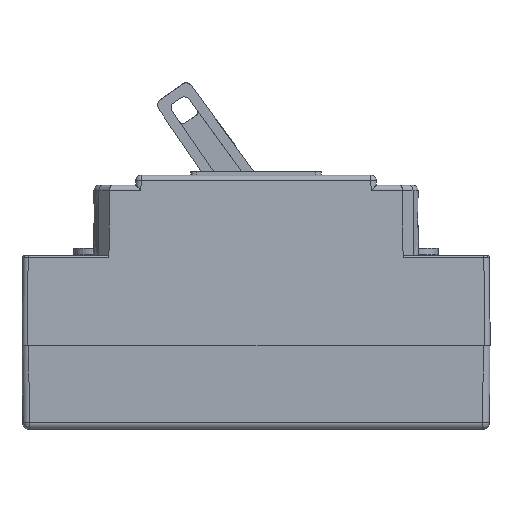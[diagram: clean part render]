
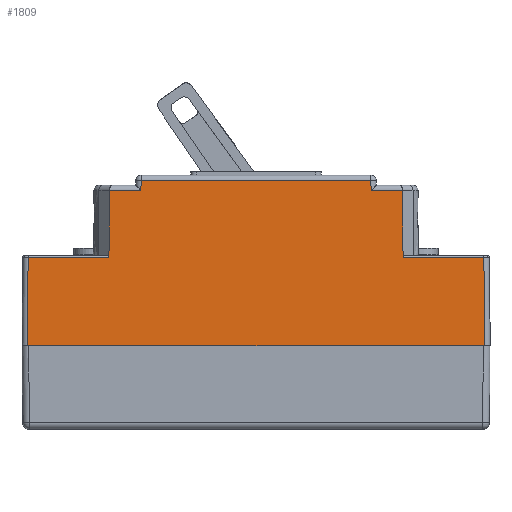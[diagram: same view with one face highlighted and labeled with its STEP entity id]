
A CAD part, left-side view. The second image highlights one B-rep face of the part: STEP entity #1809.
In plain terms, the highlighted planar face has unit normal (-1, 0, 0.009).
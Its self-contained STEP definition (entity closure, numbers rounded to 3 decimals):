
#1275=B_SPLINE_CURVE_WITH_KNOTS('',3,(#16847,#16848,#16849,#16850),
 .UNSPECIFIED.,.F.,.F.,(4,4),(0.,1.),.UNSPECIFIED.);
#1304=B_SPLINE_CURVE_WITH_KNOTS('',3,(#18096,#18097,#18098,#18099),
 .UNSPECIFIED.,.F.,.F.,(4,4),(0.,1.),.UNSPECIFIED.);
#1309=B_SPLINE_CURVE_WITH_KNOTS('',3,(#18127,#18128,#18129,#18130),
 .UNSPECIFIED.,.F.,.F.,(4,4),(0.,1.),.UNSPECIFIED.);
#1809=ADVANCED_FACE('',(#2727),#2230,.T.);
#2230=PLANE('',#12087);
#2727=FACE_OUTER_BOUND('',#3419,.T.);
#3419=EDGE_LOOP('',(#5797,#5798,#5799,#5800,#5801,#5802,#5803,#5804,#5805,
#5806,#5807,#5808,#5809,#5810));
#5797=ORIENTED_EDGE('',*,*,#9179,.T.);
#5798=ORIENTED_EDGE('',*,*,#9180,.T.);
#5799=ORIENTED_EDGE('',*,*,#9181,.F.);
#5800=ORIENTED_EDGE('',*,*,#9182,.T.);
#5801=ORIENTED_EDGE('',*,*,#9183,.T.);
#5802=ORIENTED_EDGE('',*,*,#9184,.T.);
#5803=ORIENTED_EDGE('',*,*,#9185,.T.);
#5804=ORIENTED_EDGE('',*,*,#9186,.T.);
#5805=ORIENTED_EDGE('',*,*,#9187,.T.);
#5806=ORIENTED_EDGE('',*,*,#9188,.T.);
#5807=ORIENTED_EDGE('',*,*,#9189,.T.);
#5808=ORIENTED_EDGE('',*,*,#8841,.T.);
#5809=ORIENTED_EDGE('',*,*,#8396,.F.);
#5810=ORIENTED_EDGE('',*,*,#8832,.T.);
#7363=VERTEX_POINT('',#16846);
#7364=VERTEX_POINT('',#16851);
#7533=VERTEX_POINT('',#18100);
#7537=VERTEX_POINT('',#18131);
#7789=VERTEX_POINT('',#19366);
#7790=VERTEX_POINT('',#19368);
#7791=VERTEX_POINT('',#19370);
#7792=VERTEX_POINT('',#19372);
#7793=VERTEX_POINT('',#19374);
#7794=VERTEX_POINT('',#19376);
#7795=VERTEX_POINT('',#19378);
#7796=VERTEX_POINT('',#19380);
#7797=VERTEX_POINT('',#19382);
#7798=VERTEX_POINT('',#19384);
#8396=EDGE_CURVE('',#7363,#7364,#1275,.T.);
#8832=EDGE_CURVE('',#7363,#7533,#1304,.T.);
#8841=EDGE_CURVE('',#7537,#7364,#1309,.T.);
#9179=EDGE_CURVE('',#7533,#7789,#10219,.T.);
#9180=EDGE_CURVE('',#7789,#7790,#10220,.T.);
#9181=EDGE_CURVE('',#7791,#7790,#10221,.T.);
#9182=EDGE_CURVE('',#7791,#7792,#10222,.T.);
#9183=EDGE_CURVE('',#7792,#7793,#10223,.T.);
#9184=EDGE_CURVE('',#7793,#7794,#10224,.T.);
#9185=EDGE_CURVE('',#7794,#7795,#10225,.T.);
#9186=EDGE_CURVE('',#7795,#7796,#10226,.T.);
#9187=EDGE_CURVE('',#7796,#7797,#10227,.T.);
#9188=EDGE_CURVE('',#7797,#7798,#10228,.T.);
#9189=EDGE_CURVE('',#7798,#7537,#10229,.T.);
#10219=LINE('',#19365,#11061);
#10220=LINE('',#19367,#11062);
#10221=LINE('',#19369,#11063);
#10222=LINE('',#19371,#11064);
#10223=LINE('',#19373,#11065);
#10224=LINE('',#19375,#11066);
#10225=LINE('',#19377,#11067);
#10226=LINE('',#19379,#11068);
#10227=LINE('',#19381,#11069);
#10228=LINE('',#19383,#11070);
#10229=LINE('',#19385,#11071);
#11061=VECTOR('',#14727,1.);
#11062=VECTOR('',#14728,1.);
#11063=VECTOR('',#14729,1.);
#11064=VECTOR('',#14730,1.);
#11065=VECTOR('',#14731,1.);
#11066=VECTOR('',#14732,1.);
#11067=VECTOR('',#14733,1.);
#11068=VECTOR('',#14734,1.);
#11069=VECTOR('',#14735,1.);
#11070=VECTOR('',#14736,1.);
#11071=VECTOR('',#14737,1.);
#12087=AXIS2_PLACEMENT_3D('',#19386,#14738,#14739);
#14727=DIRECTION('',(0.009,0.009,1.));
#14728=DIRECTION('',(0.,1.,0.));
#14729=DIRECTION('',(-0.009,-0.009,-1.));
#14730=DIRECTION('',(0.,1.,0.));
#14731=DIRECTION('',(0.009,0.009,1.));
#14732=DIRECTION('',(0.,1.,0.));
#14733=DIRECTION('',(-0.009,0.009,-1.));
#14734=DIRECTION('',(0.,1.,0.));
#14735=DIRECTION('',(-0.009,0.009,-1.));
#14736=DIRECTION('',(0.,1.,0.));
#14737=DIRECTION('',(-0.009,0.009,-1.));
#14738=DIRECTION('',(-1.,0.,0.009));
#14739=DIRECTION('',(0.009,0.,1.));
#16846=CARTESIAN_POINT('',(-16.,-69.,12.5));
#16847=CARTESIAN_POINT('',(-16.,-69.,12.5));
#16848=CARTESIAN_POINT('',(-16.,-46.333,12.5));
#16849=CARTESIAN_POINT('',(-16.,-23.667,12.5));
#16850=CARTESIAN_POINT('',(-16.,-1.,12.5));
#16851=CARTESIAN_POINT('',(-16.,-1.,12.5));
#18096=CARTESIAN_POINT('',(-16.,-69.,12.5));
#18097=CARTESIAN_POINT('',(-16.,-69.067,12.5));
#18098=CARTESIAN_POINT('',(-16.,-69.133,12.5));
#18099=CARTESIAN_POINT('',(-16.,-69.2,12.5));
#18100=CARTESIAN_POINT('',(-15.989,-69.197,12.5));
#18127=CARTESIAN_POINT('',(-16.,-0.8,12.5));
#18128=CARTESIAN_POINT('',(-16.,-0.867,12.5));
#18129=CARTESIAN_POINT('',(-16.,-0.933,12.5));
#18130=CARTESIAN_POINT('',(-16.,-1.,12.5));
#18131=CARTESIAN_POINT('',(-15.989,-0.803,12.5));
#19365=CARTESIAN_POINT('',(-15.995,-69.195,13.104));
#19366=CARTESIAN_POINT('',(-15.885,-69.085,25.703));
#19367=CARTESIAN_POINT('',(-15.885,0.,25.703));
#19368=CARTESIAN_POINT('',(-15.885,-56.996,25.703));
#19369=CARTESIAN_POINT('',(-16.001,-57.112,12.388));
#19370=CARTESIAN_POINT('',(-15.797,-56.908,35.707));
#19371=CARTESIAN_POINT('',(-15.797,0.,35.707));
#19372=CARTESIAN_POINT('',(-15.797,-52.207,35.707));
#19373=CARTESIAN_POINT('',(-15.996,-52.405,12.957));
#19374=CARTESIAN_POINT('',(-15.784,-52.194,37.207));
#19375=CARTESIAN_POINT('',(-15.784,-17.813,37.207));
#19376=CARTESIAN_POINT('',(-15.784,-17.806,37.207));
#19377=CARTESIAN_POINT('',(-15.791,-17.8,36.493));
#19378=CARTESIAN_POINT('',(-15.797,-17.793,35.707));
#19379=CARTESIAN_POINT('',(-15.797,-13.099,35.707));
#19380=CARTESIAN_POINT('',(-15.797,-13.092,35.707));
#19381=CARTESIAN_POINT('',(-16.001,-12.888,12.388));
#19382=CARTESIAN_POINT('',(-15.885,-13.004,25.703));
#19383=CARTESIAN_POINT('',(-15.885,-0.918,25.703));
#19384=CARTESIAN_POINT('',(-15.885,-0.915,25.703));
#19385=CARTESIAN_POINT('',(-16.,-0.8,12.493));
#19386=CARTESIAN_POINT('',(-16.,0.,12.5));
